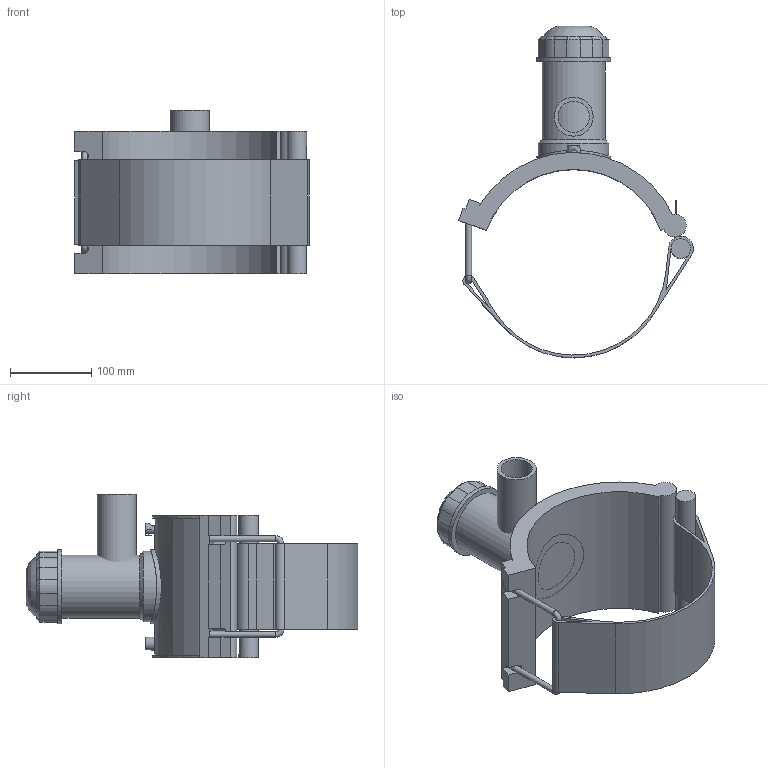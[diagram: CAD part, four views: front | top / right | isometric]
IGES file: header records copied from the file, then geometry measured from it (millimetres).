
Global section: file name: 5963DBP3080015.ipt; native system: Autodesk Inventor 2019; preprocessor: unknown; author: KIM; date: 20210830.101703; units: inch
Bounding box: 289.75 x 409.37 x 202.06 mm (x, y, z)
Volume: 2025493 mm3; surface area: 394546.6 mm2
Topology: 4 solids, 4 shells, 125 faces, 305 edges, 196 vertices
Faces by surface type: plane 69, cylinder 30, revolution 13, cone 13
Full cylindrical faces by diameter (mm): 4 x2, 7.325 x2, 24.123 x1, 48.1 x1, 77.826 x1, 86.982 x1, 91.56 x2
